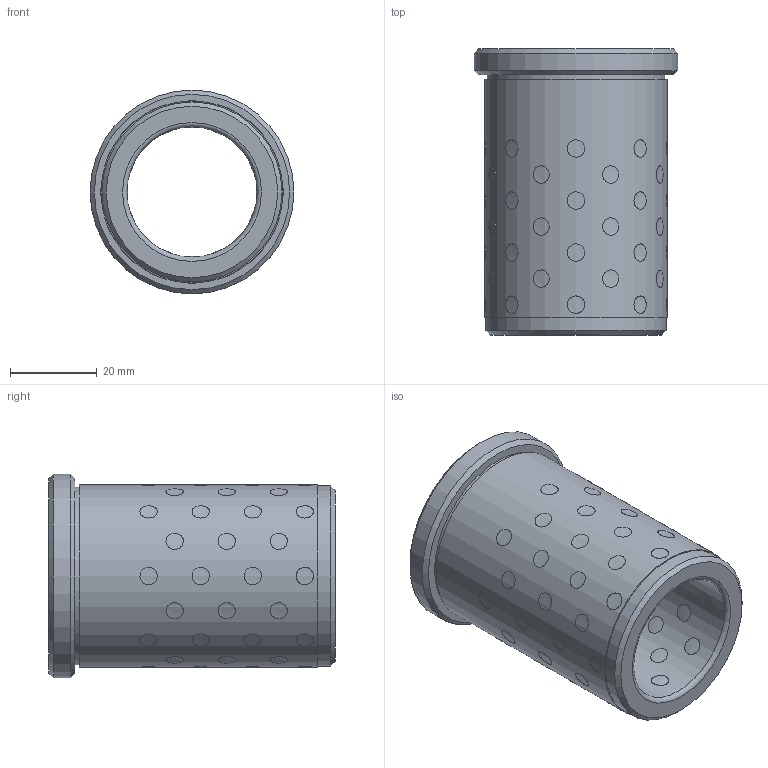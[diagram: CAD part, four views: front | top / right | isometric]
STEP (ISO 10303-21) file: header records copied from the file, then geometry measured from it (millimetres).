
FILE_DESCRIPTION( ( 'STEP AP203' ), '1' );
FILE_NAME( 'D:/Cuma/D30.05/D30.05_3066.step', '2003-01-20T18:29:10', ( ' ' ), ( ' ' ), 'XStep 1.0', ' ', ' ' );
FILE_SCHEMA( ( 'CONFIG_CONTROL_DESIGN' ) );
Length unit declared in the file: metre
Products named in the file (73): 1; 2; 3; 4; 5; 6; 7; 8; 9; 10; 11; 12; 13; 14; 15; 16; 17; 18; 19; 20; 21; 22; 23; 24; 25; 26; 27; 28; 29; 30; 31; 32; 33; 34; 35; 36; 37; 38; 39; 40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
Bounding box: 47 x 66 x 47 mm (x, y, z)
Volume: 51704 mm3; surface area: 24048.1 mm2
Topology: 73 solids, 73 shells, 231 faces, 241 edges, 159 vertices
Faces by surface type: cylinder 221, plane 5, cone 3, torus 2
Full cylindrical faces by diameter (mm): 4 x72, 30 x1, 41 x1, 41.5 x1, 42 x1, 47 x1
Entity records: 14321 total; most frequent: CARTESIAN_POINT 8254, DIRECTION 638, CC_DESIGN_PERSON_AND_ORGANIZATION_ASSIGNMENT 365, AXIS2_PLACEMENT_3D 319, EDGE_LOOP 318, ORIENTED_EDGE 318, FACE_OUTER_BOUND 310, PERSON_AND_ORGANIZATION_ROLE 292
